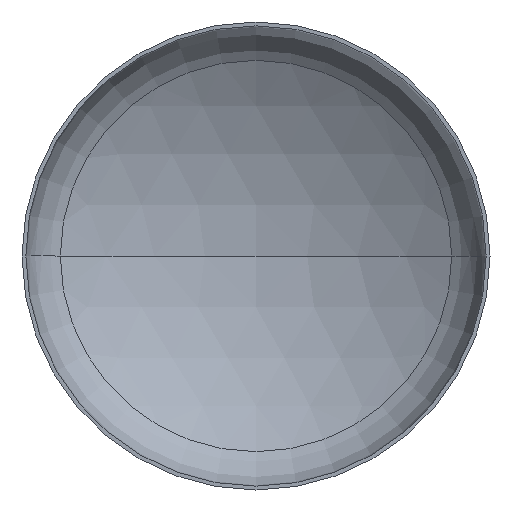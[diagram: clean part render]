
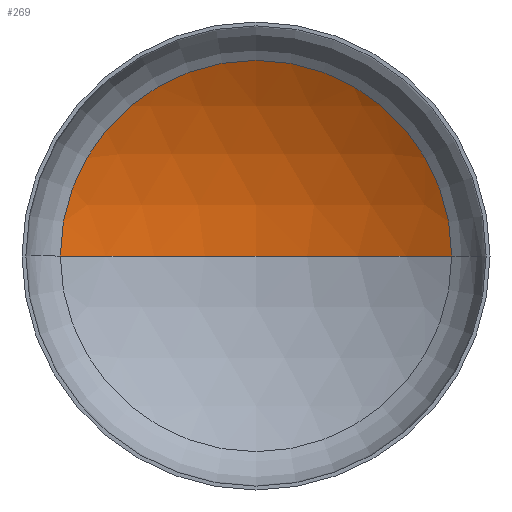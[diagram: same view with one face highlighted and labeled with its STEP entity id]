
A CAD part, front view. The second image highlights one B-rep face of the part: STEP entity #269.
In plain terms, the highlighted spherical face has radius 2720 mm.
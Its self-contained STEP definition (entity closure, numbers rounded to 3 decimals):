
#1 = ORIENTED_EDGE ( 'NONE', *, *, #92, .F. ) ;
#22 = AXIS2_PLACEMENT_3D ( 'NONE', #242, #239, #208 ) ;
#24 = CARTESIAN_POINT ( 'NONE',  ( 0., 933.526, 0. ) ) ;
#45 = AXIS2_PLACEMENT_3D ( 'NONE', #158, #63, #271 ) ;
#49 = AXIS2_PLACEMENT_3D ( 'NONE', #177, #172, #174 ) ;
#52 = AXIS2_PLACEMENT_3D ( 'NONE', #277, #267, #188 ) ;
#63 = DIRECTION ( 'NONE',  ( 0., 0., 1. ) ) ;
#88 = EDGE_CURVE ( 'NONE', #382, #311, #198, .T. ) ;
#89 = EDGE_CURVE ( 'NONE', #152, #382, #121, .T. ) ;
#92 = EDGE_CURVE ( 'NONE', #152, #311, #323, .T. ) ;
#121 = CIRCLE ( 'NONE', #49, 2720. ) ;
#145 = CARTESIAN_POINT ( 'NONE',  ( -1421.339, 532.619, 0. ) ) ;
#152 = VERTEX_POINT ( 'NONE', #24 ) ;
#158 = CARTESIAN_POINT ( 'NONE',  ( 0., -1786.474, 0. ) ) ;
#172 = DIRECTION ( 'NONE',  ( 0., 0., -1. ) ) ;
#174 = DIRECTION ( 'NONE',  ( -1., 0., 0. ) ) ;
#175 = FACE_OUTER_BOUND ( 'NONE', #306, .T. ) ;
#177 = CARTESIAN_POINT ( 'NONE',  ( 0., -1786.474, 0. ) ) ;
#188 = DIRECTION ( 'NONE',  ( 1., 0., 0. ) ) ;
#189 = SPHERICAL_SURFACE ( 'NONE', #22, 2720. ) ;
#194 = ORIENTED_EDGE ( 'NONE', *, *, #89, .T. ) ;
#198 = CIRCLE ( 'NONE', #52, 1421.339 ) ;
#208 = DIRECTION ( 'NONE',  ( -1., 0., 0. ) ) ;
#233 = ORIENTED_EDGE ( 'NONE', *, *, #88, .T. ) ;
#239 = DIRECTION ( 'NONE',  ( 0., 0., -1. ) ) ;
#242 = CARTESIAN_POINT ( 'NONE',  ( 0., -1786.474, 0. ) ) ;
#267 = DIRECTION ( 'NONE',  ( 0., -1., 0. ) ) ;
#269 = ADVANCED_FACE ( 'NONE', ( #175 ), #189, .F. ) ;
#271 = DIRECTION ( 'NONE',  ( 1., 0., 0. ) ) ;
#277 = CARTESIAN_POINT ( 'NONE',  ( 0., 532.619, 0. ) ) ;
#278 = CARTESIAN_POINT ( 'NONE',  ( 1421.339, 532.619, 0. ) ) ;
#306 = EDGE_LOOP ( 'NONE', ( #1, #194, #233 ) ) ;
#311 = VERTEX_POINT ( 'NONE', #145 ) ;
#323 = CIRCLE ( 'NONE', #45, 2720. ) ;
#382 = VERTEX_POINT ( 'NONE', #278 ) ;
